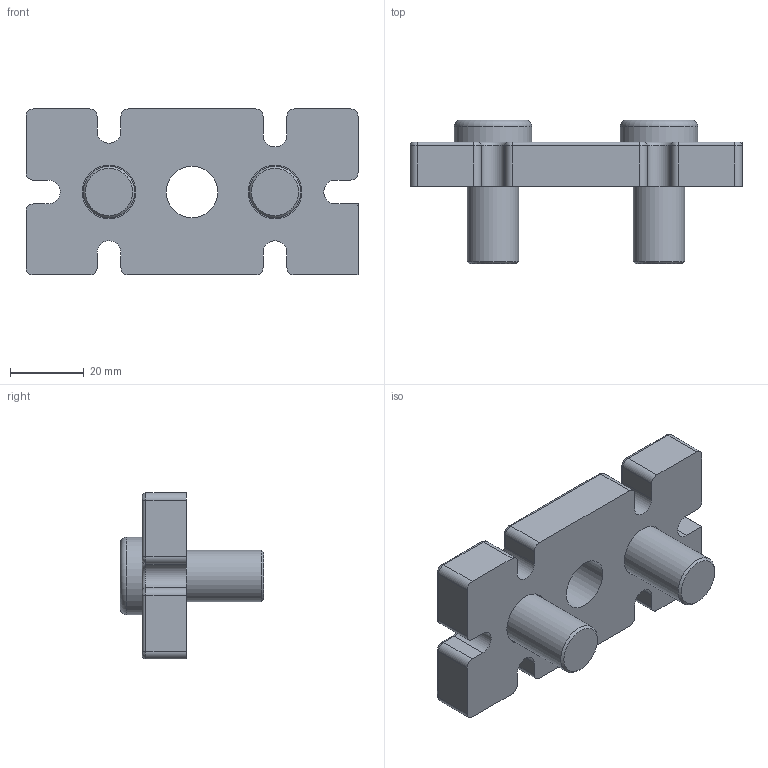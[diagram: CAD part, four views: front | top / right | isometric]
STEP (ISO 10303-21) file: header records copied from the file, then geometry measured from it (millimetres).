
FILE_DESCRIPTION(/* description */ ('Piastra profilo 45x90 per piedino M16 con viti'),/* implementation_level */ '2;1');
FILE_NAME(/* name */ 'C:\Users\Stefan.Nesic\Desktop\01010STEP\MPB45-90M16.stp',/* time_stamp */ '2022-06-17T14:53:40+02:00',/* author */ ('USER'),/* organization */ ('Microsoft'),/* preprocessor_version */ 'ST-DEVELOPER v18.1',/* originating_system */ 'Autodesk Inventor 2021',/* authorisation */ '');
FILE_SCHEMA (('AUTOMOTIVE_DESIGN { 1 0 10303 214 3 1 1 }'));
Length unit declared in the file: millimetre
Products named in the file (1): MPB45-90M16
Bounding box: 90 x 39 x 45 mm (x, y, z)
Surface area: 17553.3 mm2 (no closed solid volume)
Topology: 0 solids, 5 shells, 128 faces, 320 edges, 196 vertices
Faces by surface type: plane 52, cylinder 50, bspline 14, torus 8, cone 4
Full cylindrical faces by diameter (mm): 14 x3, 14.5 x2, 21 x2, 22.5 x2
Entity records: 4028 total; most frequent: CARTESIAN_POINT 880, DIRECTION 687, ORIENTED_EDGE 622, EDGE_CURVE 318, AXIS2_PLACEMENT_3D 258, VERTEX_POINT 196, LINE 171, VECTOR 171
